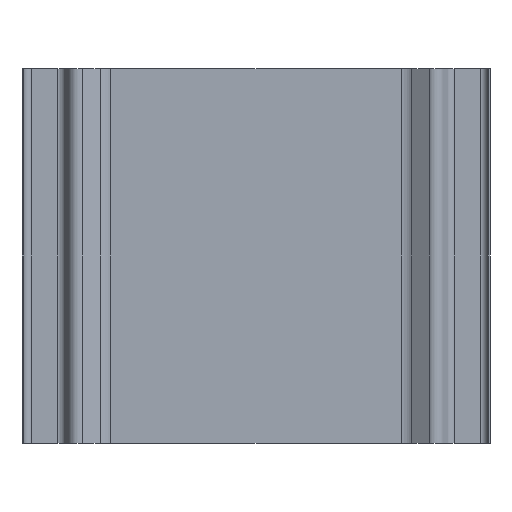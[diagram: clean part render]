
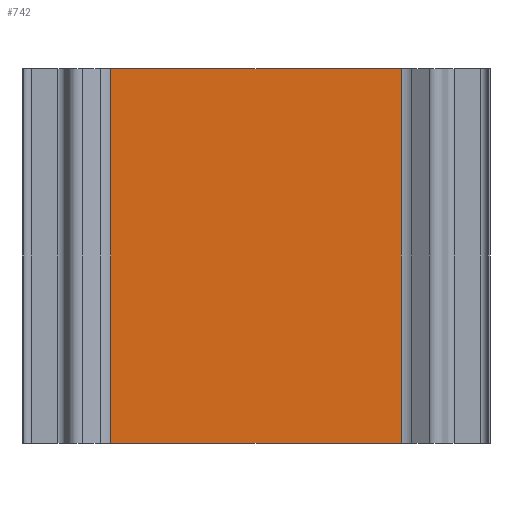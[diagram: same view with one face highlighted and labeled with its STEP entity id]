
A CAD part, front view. The second image highlights one B-rep face of the part: STEP entity #742.
In plain terms, the highlighted planar face has unit normal (0, -1, 0).
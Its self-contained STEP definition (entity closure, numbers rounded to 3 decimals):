
#5 = FACE_OUTER_BOUND ( 'NONE', #757, .T. ) ;
#43 = ORIENTED_EDGE ( 'NONE', *, *, #105, .T. ) ;
#56 = CARTESIAN_POINT ( 'NONE',  ( -38.818, 0., 100. ) ) ;
#70 = ORIENTED_EDGE ( 'NONE', *, *, #987, .T. ) ;
#95 = DIRECTION ( 'NONE',  ( 0., 0., 1. ) ) ;
#101 = VERTEX_POINT ( 'NONE', #397 ) ;
#105 = EDGE_CURVE ( 'NONE', #487, #981, #199, .T. ) ;
#132 = CARTESIAN_POINT ( 'NONE',  ( -38.818, 0., 0. ) ) ;
#138 = DIRECTION ( 'NONE',  ( 0., 0., -1. ) ) ;
#199 = LINE ( 'NONE', #991, #239 ) ;
#228 = CARTESIAN_POINT ( 'NONE',  ( 38.818, 0., 100. ) ) ;
#239 = VECTOR ( 'NONE', #478, 1000. ) ;
#301 = CARTESIAN_POINT ( 'NONE',  ( 38.818, 0., 100. ) ) ;
#324 = CARTESIAN_POINT ( 'NONE',  ( 38.818, 0., 100. ) ) ;
#339 = DIRECTION ( 'NONE',  ( 1., 0., 0. ) ) ;
#340 = ORIENTED_EDGE ( 'NONE', *, *, #964, .F. ) ;
#385 = LINE ( 'NONE', #324, #1195 ) ;
#397 = CARTESIAN_POINT ( 'NONE',  ( 38.818, 0., 100. ) ) ;
#463 = EDGE_CURVE ( 'NONE', #487, #101, #596, .T. ) ;
#478 = DIRECTION ( 'NONE',  ( 0., 0., -1. ) ) ;
#487 = VERTEX_POINT ( 'NONE', #56 ) ;
#500 = DIRECTION ( 'NONE',  ( 0., 1., 0. ) ) ;
#596 = LINE ( 'NONE', #228, #993 ) ;
#699 = VERTEX_POINT ( 'NONE', #1156 ) ;
#705 = AXIS2_PLACEMENT_3D ( 'NONE', #301, #500, #95 ) ;
#742 = ADVANCED_FACE ( 'NONE', ( #5 ), #1094, .F. ) ;
#757 = EDGE_LOOP ( 'NONE', ( #70, #340, #1162, #43 ) ) ;
#885 = VECTOR ( 'NONE', #1137, 1000. ) ;
#931 = CARTESIAN_POINT ( 'NONE',  ( 38.818, 0., 0. ) ) ;
#964 = EDGE_CURVE ( 'NONE', #101, #699, #385, .T. ) ;
#981 = VERTEX_POINT ( 'NONE', #132 ) ;
#987 = EDGE_CURVE ( 'NONE', #981, #699, #1128, .T. ) ;
#991 = CARTESIAN_POINT ( 'NONE',  ( -38.818, 0., 100. ) ) ;
#993 = VECTOR ( 'NONE', #339, 1000. ) ;
#1094 = PLANE ( 'NONE',  #705 ) ;
#1128 = LINE ( 'NONE', #931, #885 ) ;
#1137 = DIRECTION ( 'NONE',  ( 1., 0., 0. ) ) ;
#1156 = CARTESIAN_POINT ( 'NONE',  ( 38.818, 0., 0. ) ) ;
#1162 = ORIENTED_EDGE ( 'NONE', *, *, #463, .F. ) ;
#1195 = VECTOR ( 'NONE', #138, 1000. ) ;
